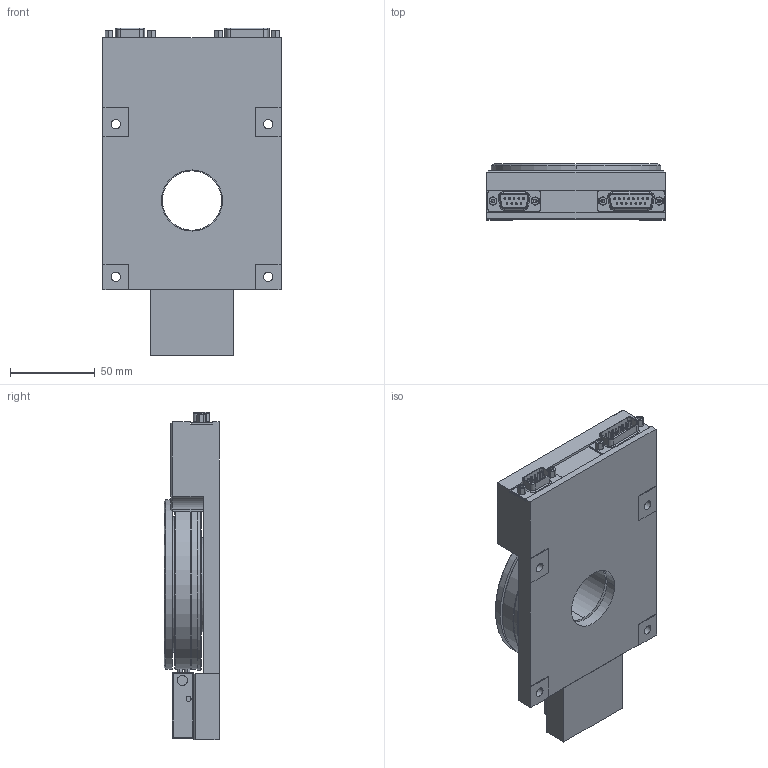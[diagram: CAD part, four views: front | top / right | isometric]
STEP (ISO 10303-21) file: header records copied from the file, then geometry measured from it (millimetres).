
FILE_DESCRIPTION((''),'2;1');
FILE_NAME('WEB_DT105-2NM-W_ASM','2018-06-28T',('de_pablo'),(''),'PRO/ENGINEER BY PARAMETRIC TECHNOLOGY CORPORATION, 2015280','PRO/ENGINEER BY PARAMETRIC TECHNOLOGY CORPORATION, 2015280','');
FILE_SCHEMA(('AUTOMOTIVE_DESIGN { 1 0 10303 214 1 1 1 1 }'));
Length unit declared in the file: millimetre
Products named in the file (8): WEB_DT105_BASIS_______00011176; WEB_DT105_TELLER______00011175; WEB_DT105_MOTORBLOCK__00015375; WEB_PIEZO_MOTOR_______00015342; 9970902_9POL_STECKER; 9970904_15POL_STECKER; KT_SECHSKANTBOLZEN_F-GSCH1-5; WEB_DT105-2NM-W_ASM
Assembly tree (10 placements, depth 2):
  WEB_DT105-2NM-W_ASM
    WEB_DT105_BASIS_______00011176
    WEB_DT105_TELLER______00011175
    WEB_DT105_MOTORBLOCK__00015375
    WEB_PIEZO_MOTOR_______00015342
    9970902_9POL_STECKER
    9970904_15POL_STECKER
    KT_SECHSKANTBOLZEN_F-GSCH1-5  x4
Bounding box: 105 x 33 x 193.05 mm (x, y, z)
Volume: 417970.1 mm3; surface area: 89275.3 mm2
Topology: 10 solids, 10 shells, 1281 faces, 3196 edges, 2029 vertices
Faces by surface type: plane 796, cylinder 295, torus 108, cone 70, sphere 8, bspline 4
Entity records: 48136 total; most frequent: CARTESIAN_POINT 6815, DIRECTION 6288, ORIENTED_EDGE 6108, PRESENTATION_STYLE_ASSIGNMENT 3055, EDGE_CURVE 3054, STYLED_ITEM 3024, CURVE_STYLE 3014, VECTOR 2260
